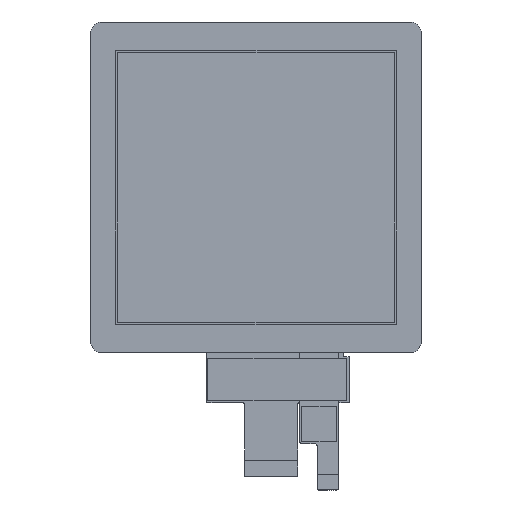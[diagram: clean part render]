
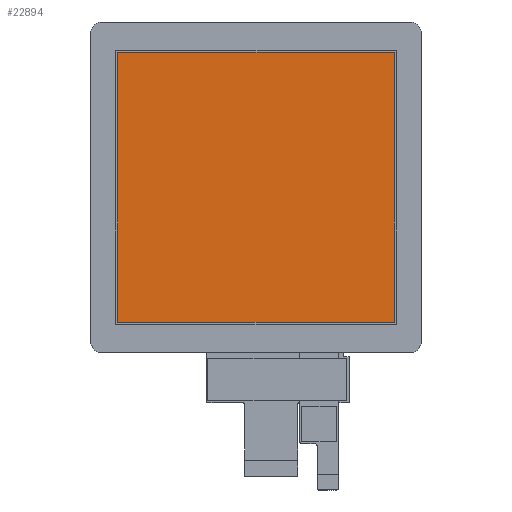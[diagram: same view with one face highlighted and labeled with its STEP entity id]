
A CAD part, top view. The second image highlights one B-rep face of the part: STEP entity #22894.
In plain terms, the highlighted planar face has unit normal (0, 0, 1).
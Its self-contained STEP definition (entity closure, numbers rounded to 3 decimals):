
#38 = CARTESIAN_POINT ( 'NONE',  ( -35.93, 36.585, 3.9 ) ) ;
#813 = CARTESIAN_POINT ( 'NONE',  ( 0., 36.585, 3.9 ) ) ;
#927 = ORIENTED_EDGE ( 'NONE', *, *, #30367, .F. ) ;
#1143 = DIRECTION ( 'NONE',  ( 1., 0., 0. ) ) ;
#3183 = VECTOR ( 'NONE', #16437, 1000. ) ;
#4385 = CARTESIAN_POINT ( 'NONE',  ( 35.93, -33.595, 3.9 ) ) ;
#4945 = EDGE_CURVE ( 'NONE', #19409, #15570, #29621, .T. ) ;
#5722 = CARTESIAN_POINT ( 'NONE',  ( 0., 0., 3.9 ) ) ;
#7237 = CARTESIAN_POINT ( 'NONE',  ( 0., -33.595, 3.9 ) ) ;
#7977 = CARTESIAN_POINT ( 'NONE',  ( -35.93, 0., 3.9 ) ) ;
#9051 = DIRECTION ( 'NONE',  ( -1., 0., 0. ) ) ;
#10309 = ORIENTED_EDGE ( 'NONE', *, *, #14836, .F. ) ;
#10453 = VECTOR ( 'NONE', #9051, 1000. ) ;
#11832 = VERTEX_POINT ( 'NONE', #38 ) ;
#12652 = EDGE_LOOP ( 'NONE', ( #927, #13251, #26264, #10309 ) ) ;
#13251 = ORIENTED_EDGE ( 'NONE', *, *, #4945, .F. ) ;
#13279 = LINE ( 'NONE', #813, #29586 ) ;
#14836 = EDGE_CURVE ( 'NONE', #11832, #19287, #13279, .T. ) ;
#15570 = VERTEX_POINT ( 'NONE', #21430 ) ;
#16437 = DIRECTION ( 'NONE',  ( 0., -1., 0. ) ) ;
#16826 = VECTOR ( 'NONE', #17437, 1000. ) ;
#17002 = AXIS2_PLACEMENT_3D ( 'NONE', #5722, #18984, #1143 ) ;
#17437 = DIRECTION ( 'NONE',  ( 0., 1., 0. ) ) ;
#17616 = LINE ( 'NONE', #7977, #16826 ) ;
#17984 = EDGE_CURVE ( 'NONE', #19287, #19409, #20827, .T. ) ;
#18984 = DIRECTION ( 'NONE',  ( 0., 0., 1. ) ) ;
#19287 = VERTEX_POINT ( 'NONE', #27093 ) ;
#19409 = VERTEX_POINT ( 'NONE', #4385 ) ;
#20827 = LINE ( 'NONE', #28161, #3183 ) ;
#21430 = CARTESIAN_POINT ( 'NONE',  ( -35.93, -33.595, 3.9 ) ) ;
#22450 = FACE_OUTER_BOUND ( 'NONE', #12652, .T. ) ;
#22894 = ADVANCED_FACE ( 'NONE', ( #22450 ), #27492, .T. ) ;
#26264 = ORIENTED_EDGE ( 'NONE', *, *, #17984, .F. ) ;
#26806 = DIRECTION ( 'NONE',  ( 1., 0., 0. ) ) ;
#27093 = CARTESIAN_POINT ( 'NONE',  ( 35.93, 36.585, 3.9 ) ) ;
#27492 = PLANE ( 'NONE',  #17002 ) ;
#28161 = CARTESIAN_POINT ( 'NONE',  ( 35.93, 0., 3.9 ) ) ;
#29586 = VECTOR ( 'NONE', #26806, 1000. ) ;
#29621 = LINE ( 'NONE', #7237, #10453 ) ;
#30367 = EDGE_CURVE ( 'NONE', #15570, #11832, #17616, .T. ) ;
